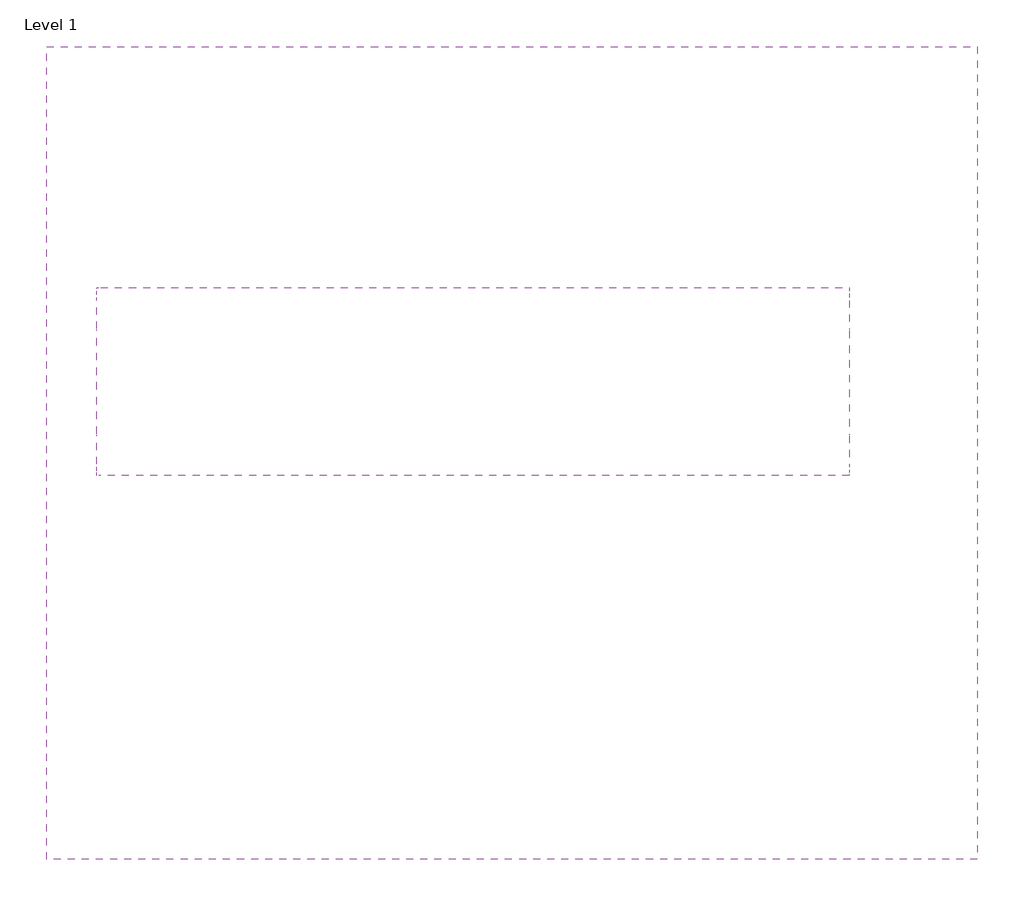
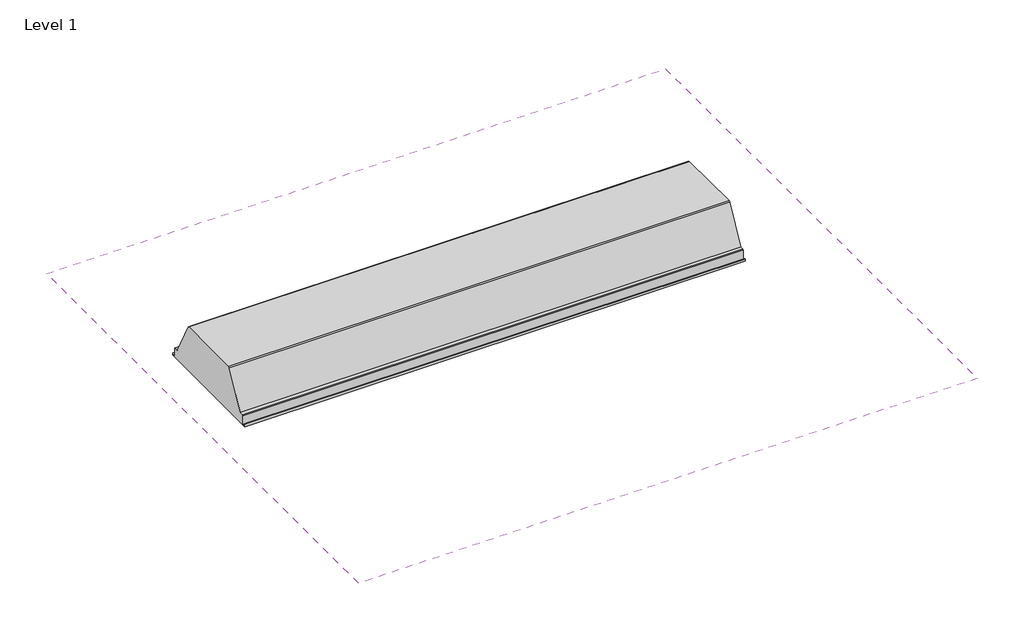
# One storey: 1 covering, 1 light fixture.
"""IFC4 building model written with IfcOpenShell, lengths in millimetres."""

from ifc_helpers import new_model, si_unit, frame, origin, place, context, project, spatial, polyline, outline, extrude, transform, mapped, element, save
from components import elt_14_refer_to_type_catalog_abc9ac32

model = new_model("IFC4")

# Units and contexts
model_context = context("Model", 3, world=origin())
ifc_project = project(units=[si_unit("LENGTHUNIT", "METRE", prefix="MILLI")], contexts=[model_context])

# Site, building, storey
site = spatial("IfcSite", under=ifc_project)
building = spatial("IfcBuilding", under=site)
storey = spatial("IfcBuildingStorey", under=building, Name="Level 1", Elevation=0.0)

# Covering
placement = place(None, origin())
element("IfcCovering", 1, ObjectType="Plain", at=placement, inside=storey, context=model_context, shape_type="SweptSolid", body=[
    extrude(outline(polyline([(-2829.1447554, 3100.8443287), (-1329.1447554, 3100.8443287), (-1329.1447554, 1790.8443287), (-2829.1447554, 1790.8443287), (-2829.1447554, 3100.8443287)]), holes=[polyline([(-1535.3689206, 2408.9372811), (-1535.3689206, 2711.9372811), (-2748.3689206, 2711.9372811), (-2748.3689206, 2408.9372811), (-1535.3689206, 2408.9372811)])]), frame((0.0, 0.0, 2600.0), z_axis=(0.0, 0.0, 1.0), x_axis=(1.0, 0.0, 0.0)), (0.0, 0.0, 1.0), 57.0),
])

# Light fixture
elt_14_refer_to_type_catalog_shape = elt_14_refer_to_type_catalog_abc9ac32(model_context)
element("IfcLightFixture", 2, ObjectType="ELT-14 : Refer To Type Catalog", at=placement, inside=storey, context=model_context, shape_type="MappedRepresentation", body=[
    mapped(elt_14_refer_to_type_catalog_shape, transform((-2144.9689206, 2952.8321896, 2600.0), x_axis=(0.0, -1.0, 0.0), y_axis=(-1.0, 0.0, 0.0), z_axis=(0.0, 0.0, -1.0))),
])

save(model, "model.ifc")
